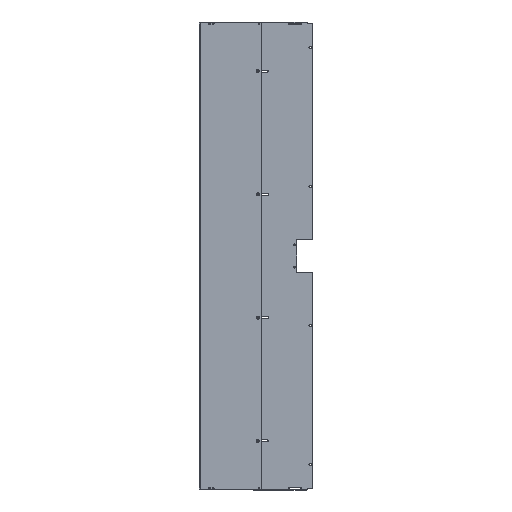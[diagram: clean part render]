
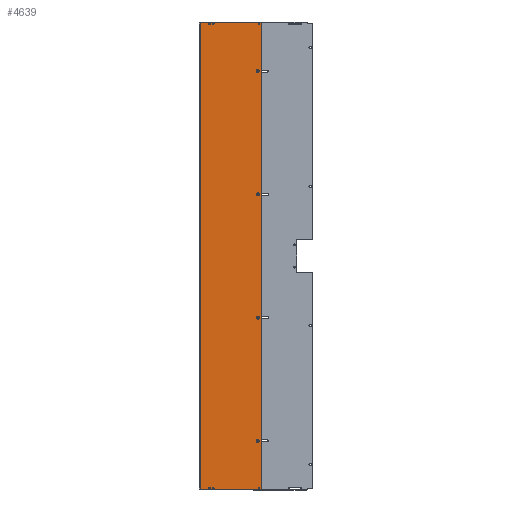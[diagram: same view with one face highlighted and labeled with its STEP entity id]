
A CAD part, top view. The second image highlights one B-rep face of the part: STEP entity #4639.
In plain terms, the highlighted planar face has unit normal (0, 0, 1) as drawn and (0, 0, -1) by its records, which use the part's own axes.
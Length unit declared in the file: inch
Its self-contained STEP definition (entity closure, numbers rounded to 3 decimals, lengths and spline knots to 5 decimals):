
#3317=CARTESIAN_POINT('',(-2.985,-33.69875,-0.075));
#3318=DIRECTION('',(0.,0.,1.));
#3319=DIRECTION('',(0.,1.,0.));
#3320=AXIS2_PLACEMENT_3D('',#3317,#3318,#3319);
#3325=CARTESIAN_POINT('',(-2.985,-33.69875,-0.075));
#3326=DIRECTION('',(0.,0.,1.));
#3327=DIRECTION('',(0.,-1.,0.));
#3328=AXIS2_PLACEMENT_3D('',#3325,#3326,#3327);
#3333=CARTESIAN_POINT('',(-2.985,33.69875,-0.075));
#3334=DIRECTION('',(0.,0.,1.));
#3335=DIRECTION('',(0.,1.,0.));
#3336=AXIS2_PLACEMENT_3D('',#3333,#3334,#3335);
#3341=CARTESIAN_POINT('',(-2.985,33.69875,-0.075));
#3342=DIRECTION('',(0.,0.,1.));
#3343=DIRECTION('',(0.,-1.,0.));
#3344=AXIS2_PLACEMENT_3D('',#3341,#3342,#3343);
#3349=CARTESIAN_POINT('',(-2.485,-33.69875,-0.075));
#3350=DIRECTION('',(0.,0.,1.));
#3351=DIRECTION('',(0.,1.,0.));
#3352=AXIS2_PLACEMENT_3D('',#3349,#3350,#3351);
#3357=CARTESIAN_POINT('',(-2.485,-33.69875,-0.075));
#3358=DIRECTION('',(0.,0.,1.));
#3359=DIRECTION('',(0.,-1.,0.));
#3360=AXIS2_PLACEMENT_3D('',#3357,#3358,#3359);
#3365=CARTESIAN_POINT('',(-2.485,33.69875,-0.075));
#3366=DIRECTION('',(0.,0.,1.));
#3367=DIRECTION('',(0.,1.,0.));
#3368=AXIS2_PLACEMENT_3D('',#3365,#3366,#3367);
#3373=CARTESIAN_POINT('',(-2.485,33.69875,-0.075));
#3374=DIRECTION('',(0.,0.,1.));
#3375=DIRECTION('',(0.,-1.,0.));
#3376=AXIS2_PLACEMENT_3D('',#3373,#3374,#3375);
#3381=CARTESIAN_POINT('',(4.36,-33.84375,-0.075));
#3382=DIRECTION('',(0.,0.,-1.));
#3383=DIRECTION('',(1.,0.,0.));
#3384=AXIS2_PLACEMENT_3D('',#3381,#3382,#3383);
#3389=DIRECTION('',(0.,1.,0.));
#3390=VECTOR('',#3389,67.6875);
#3391=CARTESIAN_POINT('',(4.485,-33.84375,-0.075));
#3392=LINE('',#3391,#3390);
#3396=CARTESIAN_POINT('',(4.36,33.84375,-0.075));
#3397=DIRECTION('',(0.,0.,-1.));
#3398=DIRECTION('',(0.,1.,0.));
#3399=AXIS2_PLACEMENT_3D('',#3396,#3397,#3398);
#3404=DIRECTION('',(-1.,0.,0.));
#3405=VECTOR('',#3404,8.728);
#3406=CARTESIAN_POINT('',(4.36,33.96875,-0.075));
#3407=LINE('',#3406,#3405);
#3411=DIRECTION('',(1.,0.,0.));
#3412=VECTOR('',#3411,8.728);
#3413=CARTESIAN_POINT('',(-4.368,-33.96875,-0.075));
#3414=LINE('',#3413,#3412);
#3418=CARTESIAN_POINT('',(3.985,-26.84375,-0.075));
#3419=DIRECTION('',(0.,0.,-1.));
#3420=DIRECTION('',(0.,1.,0.));
#3421=AXIS2_PLACEMENT_3D('',#3418,#3419,#3420);
#3426=CARTESIAN_POINT('',(3.985,-26.84375,-0.075));
#3427=DIRECTION('',(0.,0.,-1.));
#3428=DIRECTION('',(0.,-1.,0.));
#3429=AXIS2_PLACEMENT_3D('',#3426,#3427,#3428);
#3434=CARTESIAN_POINT('',(3.985,-8.94792,-0.075));
#3435=DIRECTION('',(0.,0.,-1.));
#3436=DIRECTION('',(0.,1.,0.));
#3437=AXIS2_PLACEMENT_3D('',#3434,#3435,#3436);
#3442=CARTESIAN_POINT('',(3.985,-8.94792,-0.075));
#3443=DIRECTION('',(0.,0.,-1.));
#3444=DIRECTION('',(0.,-1.,0.));
#3445=AXIS2_PLACEMENT_3D('',#3442,#3443,#3444);
#3450=CARTESIAN_POINT('',(3.985,8.94792,-0.075));
#3451=DIRECTION('',(0.,0.,-1.));
#3452=DIRECTION('',(0.,1.,0.));
#3453=AXIS2_PLACEMENT_3D('',#3450,#3451,#3452);
#3458=CARTESIAN_POINT('',(3.985,8.94792,-0.075));
#3459=DIRECTION('',(0.,0.,-1.));
#3460=DIRECTION('',(0.,-1.,0.));
#3461=AXIS2_PLACEMENT_3D('',#3458,#3459,#3460);
#3466=CARTESIAN_POINT('',(3.985,26.84375,-0.075));
#3467=DIRECTION('',(0.,0.,-1.));
#3468=DIRECTION('',(0.,1.,0.));
#3469=AXIS2_PLACEMENT_3D('',#3466,#3467,#3468);
#3474=CARTESIAN_POINT('',(3.985,26.84375,-0.075));
#3475=DIRECTION('',(0.,0.,-1.));
#3476=DIRECTION('',(0.,-1.,0.));
#3477=AXIS2_PLACEMENT_3D('',#3474,#3475,#3476);
#3482=CARTESIAN_POINT('',(4.20375,-33.6875,-0.075));
#3483=DIRECTION('',(0.,0.,1.));
#3484=DIRECTION('',(0.,1.,0.));
#3485=AXIS2_PLACEMENT_3D('',#3482,#3483,#3484);
#3490=CARTESIAN_POINT('',(4.20375,-33.6875,-0.075));
#3491=DIRECTION('',(0.,0.,1.));
#3492=DIRECTION('',(0.,-1.,0.));
#3493=AXIS2_PLACEMENT_3D('',#3490,#3491,#3492);
#3498=CARTESIAN_POINT('',(4.20375,33.6875,-0.075));
#3499=DIRECTION('',(0.,0.,1.));
#3500=DIRECTION('',(0.,1.,0.));
#3501=AXIS2_PLACEMENT_3D('',#3498,#3499,#3500);
#3506=CARTESIAN_POINT('',(4.20375,33.6875,-0.075));
#3507=DIRECTION('',(0.,0.,1.));
#3508=DIRECTION('',(0.,-1.,0.));
#3509=AXIS2_PLACEMENT_3D('',#3506,#3507,#3508);
#4120=DIRECTION('',(0.,-1.,0.));
#4121=VECTOR('',#4120,67.9375);
#4122=CARTESIAN_POINT('',(-4.368,33.96875,-0.075));
#4123=LINE('',#4122,#4121);
#4266=CARTESIAN_POINT('',(-4.368,33.96875,-0.075));
#4267=VERTEX_POINT('',#4266);
#4268=CARTESIAN_POINT('',(-4.368,-33.96875,-0.075));
#4269=VERTEX_POINT('',#4268);
#4286=CARTESIAN_POINT('',(-2.485,33.82375,-0.075));
#4287=CARTESIAN_POINT('',(-2.485,33.57375,-0.075));
#4288=VERTEX_POINT('',#4286);
#4289=VERTEX_POINT('',#4287);
#4290=CARTESIAN_POINT('',(-2.485,-33.57375,-0.075));
#4291=CARTESIAN_POINT('',(-2.485,-33.82375,-0.075));
#4292=VERTEX_POINT('',#4290);
#4293=VERTEX_POINT('',#4291);
#4378=CARTESIAN_POINT('',(4.485,-33.84375,-0.075));
#4379=VERTEX_POINT('',#4378);
#4380=CARTESIAN_POINT('',(4.36,-33.96875,-0.075));
#4381=VERTEX_POINT('',#4380);
#4386=CARTESIAN_POINT('',(4.36,33.96875,-0.075));
#4387=VERTEX_POINT('',#4386);
#4388=CARTESIAN_POINT('',(4.485,33.84375,-0.075));
#4389=VERTEX_POINT('',#4388);
#4406=CARTESIAN_POINT('',(3.985,27.01575,-0.075));
#4407=CARTESIAN_POINT('',(3.985,26.67175,-0.075));
#4408=VERTEX_POINT('',#4406);
#4409=VERTEX_POINT('',#4407);
#4410=CARTESIAN_POINT('',(3.985,9.11992,-0.075));
#4411=CARTESIAN_POINT('',(3.985,8.77592,-0.075));
#4412=VERTEX_POINT('',#4410);
#4413=VERTEX_POINT('',#4411);
#4414=CARTESIAN_POINT('',(3.985,-8.77592,-0.075));
#4415=CARTESIAN_POINT('',(3.985,-9.11992,-0.075));
#4416=VERTEX_POINT('',#4414);
#4417=VERTEX_POINT('',#4415);
#4418=CARTESIAN_POINT('',(3.985,-26.67175,-0.075));
#4419=CARTESIAN_POINT('',(3.985,-27.01575,-0.075));
#4420=VERTEX_POINT('',#4418);
#4421=VERTEX_POINT('',#4419);
#4430=CARTESIAN_POINT('',(-2.985,33.82375,-0.075));
#4431=CARTESIAN_POINT('',(-2.985,33.57375,-0.075));
#4432=VERTEX_POINT('',#4430);
#4433=VERTEX_POINT('',#4431);
#4434=CARTESIAN_POINT('',(-2.985,-33.57375,-0.075));
#4435=CARTESIAN_POINT('',(-2.985,-33.82375,-0.075));
#4436=VERTEX_POINT('',#4434);
#4437=VERTEX_POINT('',#4435);
#4446=CARTESIAN_POINT('',(4.20375,33.7965,-0.075));
#4447=CARTESIAN_POINT('',(4.20375,33.5785,-0.075));
#4448=VERTEX_POINT('',#4446);
#4449=VERTEX_POINT('',#4447);
#4450=CARTESIAN_POINT('',(4.20375,-33.5785,-0.075));
#4451=CARTESIAN_POINT('',(4.20375,-33.7965,-0.075));
#4452=VERTEX_POINT('',#4450);
#4453=VERTEX_POINT('',#4451);
#4562=CARTESIAN_POINT('',(0.,0.,-0.075));
#4563=DIRECTION('',(0.,0.,1.));
#4564=DIRECTION('',(1.,0.,0.));
#4565=AXIS2_PLACEMENT_3D('',#4562,#4563,#4564);
#4566=PLANE('',#4565);
#4568=ORIENTED_EDGE('',*,*,#4567,.F.);
#4570=ORIENTED_EDGE('',*,*,#4569,.T.);
#4572=ORIENTED_EDGE('',*,*,#4571,.F.);
#4574=ORIENTED_EDGE('',*,*,#4573,.T.);
#4576=ORIENTED_EDGE('',*,*,#4575,.T.);
#4578=ORIENTED_EDGE('',*,*,#4577,.T.);
#4579=EDGE_LOOP('',(#4568,#4570,#4572,#4574,#4576,#4578));
#4580=FACE_OUTER_BOUND('',#4579,.F.);
#4582=ORIENTED_EDGE('',*,*,#4581,.F.);
#4584=ORIENTED_EDGE('',*,*,#4583,.F.);
#4585=EDGE_LOOP('',(#4582,#4584));
#4586=FACE_BOUND('',#4585,.F.);
#4588=ORIENTED_EDGE('',*,*,#4587,.F.);
#4590=ORIENTED_EDGE('',*,*,#4589,.F.);
#4591=EDGE_LOOP('',(#4588,#4590));
#4592=FACE_BOUND('',#4591,.F.);
#4593=ORIENTED_EDGE('',*,*,#4542,.F.);
#4594=ORIENTED_EDGE('',*,*,#4556,.F.);
#4595=EDGE_LOOP('',(#4593,#4594));
#4596=FACE_BOUND('',#4595,.F.);
#4598=ORIENTED_EDGE('',*,*,#4597,.F.);
#4600=ORIENTED_EDGE('',*,*,#4599,.F.);
#4601=EDGE_LOOP('',(#4598,#4600));
#4602=FACE_BOUND('',#4601,.F.);
#4604=ORIENTED_EDGE('',*,*,#4603,.T.);
#4606=ORIENTED_EDGE('',*,*,#4605,.T.);
#4607=EDGE_LOOP('',(#4604,#4606));
#4608=FACE_BOUND('',#4607,.F.);
#4610=ORIENTED_EDGE('',*,*,#4609,.T.);
#4612=ORIENTED_EDGE('',*,*,#4611,.T.);
#4613=EDGE_LOOP('',(#4610,#4612));
#4614=FACE_BOUND('',#4613,.F.);
#4616=ORIENTED_EDGE('',*,*,#4615,.T.);
#4618=ORIENTED_EDGE('',*,*,#4617,.T.);
#4619=EDGE_LOOP('',(#4616,#4618));
#4620=FACE_BOUND('',#4619,.F.);
#4622=ORIENTED_EDGE('',*,*,#4621,.T.);
#4624=ORIENTED_EDGE('',*,*,#4623,.T.);
#4625=EDGE_LOOP('',(#4622,#4624));
#4626=FACE_BOUND('',#4625,.F.);
#4628=ORIENTED_EDGE('',*,*,#4627,.F.);
#4630=ORIENTED_EDGE('',*,*,#4629,.F.);
#4631=EDGE_LOOP('',(#4628,#4630));
#4632=FACE_BOUND('',#4631,.F.);
#4634=ORIENTED_EDGE('',*,*,#4633,.F.);
#4636=ORIENTED_EDGE('',*,*,#4635,.F.);
#4637=EDGE_LOOP('',(#4634,#4636));
#4638=FACE_BOUND('',#4637,.F.);
#3321=CIRCLE('',#3320,0.125);
#3329=CIRCLE('',#3328,0.125);
#3337=CIRCLE('',#3336,0.125);
#3345=CIRCLE('',#3344,0.125);
#3353=CIRCLE('',#3352,0.125);
#3361=CIRCLE('',#3360,0.125);
#3369=CIRCLE('',#3368,0.125);
#3377=CIRCLE('',#3376,0.125);
#3385=CIRCLE('',#3384,0.125);
#3400=CIRCLE('',#3399,0.125);
#3422=CIRCLE('',#3421,0.172);
#3430=CIRCLE('',#3429,0.172);
#3438=CIRCLE('',#3437,0.172);
#3446=CIRCLE('',#3445,0.172);
#3454=CIRCLE('',#3453,0.172);
#3462=CIRCLE('',#3461,0.172);
#3470=CIRCLE('',#3469,0.172);
#3478=CIRCLE('',#3477,0.172);
#3486=CIRCLE('',#3485,0.109);
#3494=CIRCLE('',#3493,0.109);
#3502=CIRCLE('',#3501,0.109);
#3510=CIRCLE('',#3509,0.109);
#4542=EDGE_CURVE('',#4288,#4289,#3369,.T.);
#4556=EDGE_CURVE('',#4289,#4288,#3377,.T.);
#4567=EDGE_CURVE('',#4379,#4381,#3385,.T.);
#4569=EDGE_CURVE('',#4379,#4389,#3392,.T.);
#4571=EDGE_CURVE('',#4387,#4389,#3400,.T.);
#4573=EDGE_CURVE('',#4387,#4267,#3407,.T.);
#4575=EDGE_CURVE('',#4267,#4269,#4123,.T.);
#4577=EDGE_CURVE('',#4269,#4381,#3414,.T.);
#4581=EDGE_CURVE('',#4432,#4433,#3337,.T.);
#4583=EDGE_CURVE('',#4433,#4432,#3345,.T.);
#4587=EDGE_CURVE('',#4292,#4293,#3353,.T.);
#4589=EDGE_CURVE('',#4293,#4292,#3361,.T.);
#4597=EDGE_CURVE('',#4436,#4437,#3321,.T.);
#4599=EDGE_CURVE('',#4437,#4436,#3329,.T.);
#4603=EDGE_CURVE('',#4420,#4421,#3422,.T.);
#4605=EDGE_CURVE('',#4421,#4420,#3430,.T.);
#4609=EDGE_CURVE('',#4416,#4417,#3438,.T.);
#4611=EDGE_CURVE('',#4417,#4416,#3446,.T.);
#4615=EDGE_CURVE('',#4412,#4413,#3454,.T.);
#4617=EDGE_CURVE('',#4413,#4412,#3462,.T.);
#4621=EDGE_CURVE('',#4408,#4409,#3470,.T.);
#4623=EDGE_CURVE('',#4409,#4408,#3478,.T.);
#4627=EDGE_CURVE('',#4452,#4453,#3486,.T.);
#4629=EDGE_CURVE('',#4453,#4452,#3494,.T.);
#4633=EDGE_CURVE('',#4448,#4449,#3502,.T.);
#4635=EDGE_CURVE('',#4449,#4448,#3510,.T.);
#4639=ADVANCED_FACE('',(#4580,#4586,#4592,#4596,#4602,#4608,#4614,#4620,#4626,
#4632,#4638),#4566,.F.);
